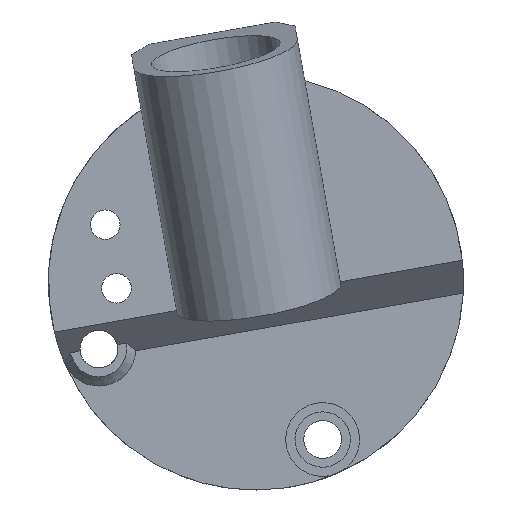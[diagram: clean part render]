
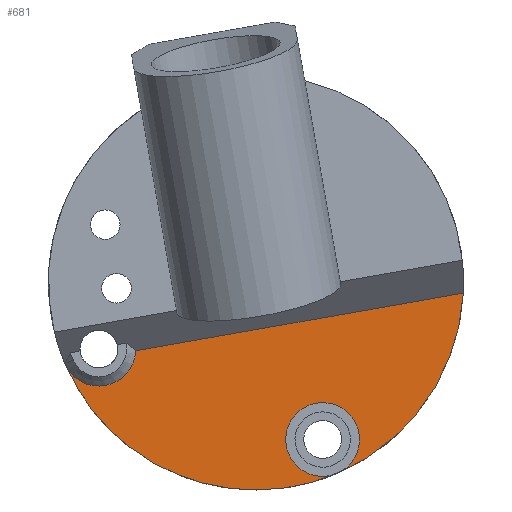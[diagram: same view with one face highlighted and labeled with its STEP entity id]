
A CAD part, left-side view. The second image highlights one B-rep face of the part: STEP entity #681.
In plain terms, the highlighted planar face has unit normal (-1, 0, 0).
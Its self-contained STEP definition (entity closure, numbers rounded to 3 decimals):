
#59=CIRCLE('',#730,4.);
#65=CIRCLE('',#743,22.5);
#66=CIRCLE('',#744,22.5);
#67=CIRCLE('',#746,4.);
#68=CIRCLE('',#747,4.);
#113=FACE_OUTER_BOUND('',#156,.T.);
#156=EDGE_LOOP('',(#529,#530,#531,#532,#533,#534));
#215=LINE('',#1157,#262);
#262=VECTOR('',#915,10.);
#301=VERTEX_POINT('',#1092);
#303=VERTEX_POINT('',#1096);
#312=VERTEX_POINT('',#1119);
#313=VERTEX_POINT('',#1121);
#314=VERTEX_POINT('',#1125);
#369=EDGE_CURVE('',#301,#303,#59,.T.);
#381=EDGE_CURVE('',#313,#312,#65,.T.);
#382=EDGE_CURVE('',#303,#313,#66,.T.);
#383=EDGE_CURVE('',#313,#314,#67,.T.);
#384=EDGE_CURVE('',#314,#313,#68,.T.);
#400=EDGE_CURVE('',#301,#312,#215,.T.);
#529=ORIENTED_EDGE('',*,*,#400,.F.);
#530=ORIENTED_EDGE('',*,*,#369,.T.);
#531=ORIENTED_EDGE('',*,*,#382,.T.);
#532=ORIENTED_EDGE('',*,*,#383,.T.);
#533=ORIENTED_EDGE('',*,*,#384,.T.);
#534=ORIENTED_EDGE('',*,*,#381,.T.);
#656=PLANE('',#762);
#681=ADVANCED_FACE('',(#113),#656,.F.);
#730=AXIS2_PLACEMENT_3D('',#1098,#844,#845);
#743=AXIS2_PLACEMENT_3D('',#1122,#871,#872);
#744=AXIS2_PLACEMENT_3D('',#1123,#873,#874);
#746=AXIS2_PLACEMENT_3D('',#1126,#877,#878);
#747=AXIS2_PLACEMENT_3D('',#1127,#879,#880);
#762=AXIS2_PLACEMENT_3D('',#1163,#920,#921);
#844=DIRECTION('center_axis',(1.,0.,0.));
#845=DIRECTION('ref_axis',(0.,-0.999,-0.035));
#871=DIRECTION('center_axis',(-1.,0.,0.));
#872=DIRECTION('ref_axis',(0.,-0.985,0.174));
#873=DIRECTION('center_axis',(-1.,0.,0.));
#874=DIRECTION('ref_axis',(0.,-0.985,0.174));
#877=DIRECTION('center_axis',(1.,0.,0.));
#878=DIRECTION('ref_axis',(0.,-0.999,-0.035));
#879=DIRECTION('center_axis',(1.,0.,0.));
#880=DIRECTION('ref_axis',(0.,-0.999,-0.035));
#915=DIRECTION('',(0.,-0.985,0.174));
#920=DIRECTION('center_axis',(1.,0.,0.));
#921=DIRECTION('ref_axis',(0.,-1.,0.));
#1092=CARTESIAN_POINT('',(124.226,-286.966,3.671));
#1096=CARTESIAN_POINT('',(124.226,-279.289,2.293));
#1098=CARTESIAN_POINT('Origin',(124.226,-282.971,3.856));
#1119=CARTESIAN_POINT('',(124.226,-322.47,9.931));
#1121=CARTESIAN_POINT('',(124.226,-308.791,-9.627));
#1122=CARTESIAN_POINT('Origin',(124.226,-300.,11.084));
#1123=CARTESIAN_POINT('Origin',(124.226,-300.,11.084));
#1125=CARTESIAN_POINT('',(124.226,-311.226,-6.085));
#1126=CARTESIAN_POINT('Origin',(124.226,-307.229,-5.945));
#1127=CARTESIAN_POINT('Origin',(124.226,-307.229,-5.945));
#1157=CARTESIAN_POINT('',(124.226,-298.879,5.771));
#1163=CARTESIAN_POINT('Origin',(124.226,-301.054,-0.229));
